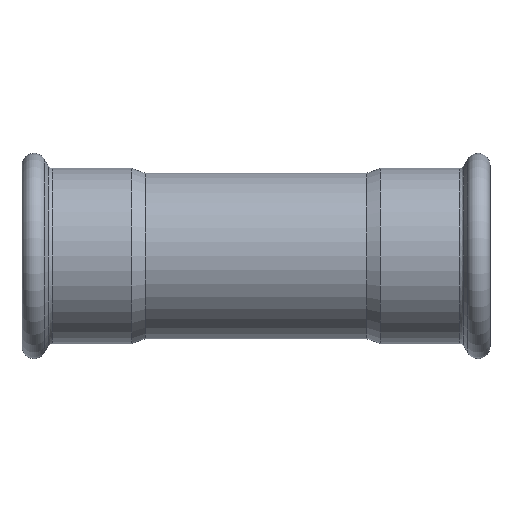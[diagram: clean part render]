
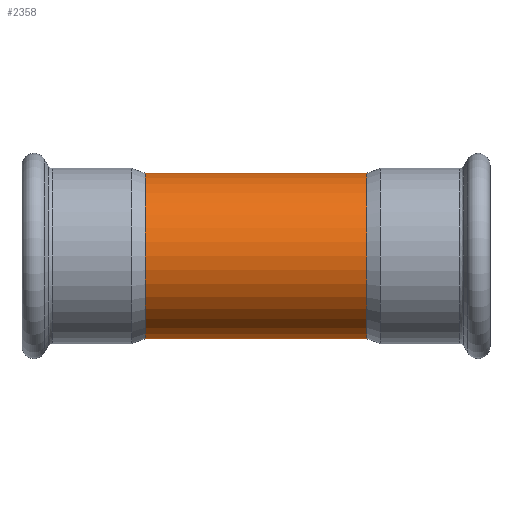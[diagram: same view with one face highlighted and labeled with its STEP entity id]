
A CAD part, front view. The second image highlights one B-rep face of the part: STEP entity #2358.
In plain terms, the highlighted cylindrical face has radius 38.05 mm (diameter 76.1 mm), a full revolution.
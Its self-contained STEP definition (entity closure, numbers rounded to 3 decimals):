
#2143=CARTESIAN_POINT('',(0.,26.243,-27.552));
#2144=VERTEX_POINT('',#2143);
#2230=CARTESIAN_POINT('',(0.,26.243,-27.552));
#2231=CARTESIAN_POINT('',(-1.129,26.243,-27.552));
#2232=CARTESIAN_POINT('',(-2.823,26.343,-27.457));
#2233=CARTESIAN_POINT('',(-5.035,26.661,-27.149));
#2234=CARTESIAN_POINT('',(-6.938,27.036,-26.776));
#2235=CARTESIAN_POINT('',(-8.524,27.452,-26.351));
#2236=CARTESIAN_POINT('',(-10.567,28.078,-25.684));
#2237=CARTESIAN_POINT('',(-12.784,28.882,-24.792));
#2238=CARTESIAN_POINT('',(-15.553,30.09,-23.319));
#2239=CARTESIAN_POINT('',(-17.685,31.149,-21.875));
#2240=CARTESIAN_POINT('',(-19.272,31.995,-20.606));
#2241=CARTESIAN_POINT('',(-20.794,32.839,-19.249));
#2242=CARTESIAN_POINT('',(-22.295,33.718,-17.677));
#2243=CARTESIAN_POINT('',(-23.573,34.498,-16.072));
#2244=CARTESIAN_POINT('',(-24.76,35.239,-14.398));
#2245=CARTESIAN_POINT('',(-26.021,36.049,-12.294));
#2246=CARTESIAN_POINT('',(-26.94,36.657,-10.259));
#2247=CARTESIAN_POINT('',(-27.492,37.026,-8.782));
#2248=CARTESIAN_POINT('',(-27.831,37.253,-7.784));
#2249=CARTESIAN_POINT('',(-28.663,37.817,-4.846));
#2250=CARTESIAN_POINT('',(-29.082,38.107,-1.495));
#2251=CARTESIAN_POINT('',(-28.96,38.022,1.724));
#2252=CARTESIAN_POINT('',(-28.748,37.877,3.858));
#2253=CARTESIAN_POINT('',(-28.22,37.516,6.703));
#2254=CARTESIAN_POINT('',(-27.371,36.943,9.225));
#2255=CARTESIAN_POINT('',(-26.526,36.384,11.152));
#2256=CARTESIAN_POINT('',(-25.916,35.984,12.408));
#2257=CARTESIAN_POINT('',(-24.634,35.157,14.649));
#2258=CARTESIAN_POINT('',(-22.904,34.078,17.006));
#2259=CARTESIAN_POINT('',(-21.034,32.979,19.003));
#2260=CARTESIAN_POINT('',(-19.03,31.854,20.853));
#2261=CARTESIAN_POINT('',(-16.461,30.507,22.799));
#2262=CARTESIAN_POINT('',(-13.27,29.072,24.573));
#2263=CARTESIAN_POINT('',(-10.664,28.111,25.649));
#2264=CARTESIAN_POINT('',(-7.944,27.264,26.552));
#2265=CARTESIAN_POINT('',(-4.537,26.485,27.324));
#2266=CARTESIAN_POINT('',(-0.868,26.191,27.601));
#2267=CARTESIAN_POINT('',(2.144,26.293,27.504));
#2268=CARTESIAN_POINT('',(4.378,26.54,27.267));
#2269=CARTESIAN_POINT('',(6.651,26.969,26.845));
#2270=CARTESIAN_POINT('',(8.596,27.468,26.335));
#2271=CARTESIAN_POINT('',(10.64,28.103,25.658));
#2272=CARTESIAN_POINT('',(13.247,29.063,24.583));
#2273=CARTESIAN_POINT('',(16.445,30.498,22.811));
#2274=CARTESIAN_POINT('',(19.179,31.932,20.739));
#2275=CARTESIAN_POINT('',(21.151,33.047,18.884));
#2276=CARTESIAN_POINT('',(22.993,34.134,16.883));
#2277=CARTESIAN_POINT('',(24.624,35.151,14.663));
#2278=CARTESIAN_POINT('',(25.994,36.034,12.272));
#2279=CARTESIAN_POINT('',(27.189,36.82,9.756));
#2280=CARTESIAN_POINT('',(28.322,37.584,6.413));
#2281=CARTESIAN_POINT('',(29.028,38.069,2.178));
#2282=CARTESIAN_POINT('',(29.031,38.071,-2.134));
#2283=CARTESIAN_POINT('',(28.449,37.672,-5.663));
#2284=CARTESIAN_POINT('',(27.656,37.135,-8.378));
#2285=CARTESIAN_POINT('',(26.652,36.464,-11.019));
#2286=CARTESIAN_POINT('',(25.348,35.612,-13.504));
#2287=CARTESIAN_POINT('',(23.812,34.644,-15.769));
#2288=CARTESIAN_POINT('',(21.692,33.349,-18.445));
#2289=CARTESIAN_POINT('',(19.315,31.987,-20.678));
#2290=CARTESIAN_POINT('',(16.809,30.714,-22.468));
#2291=CARTESIAN_POINT('',(15.08,29.884,-23.571));
#2292=CARTESIAN_POINT('',(13.241,29.082,-24.548));
#2293=CARTESIAN_POINT('',(11.299,28.344,-25.39));
#2294=CARTESIAN_POINT('',(9.298,27.664,-26.133));
#2295=CARTESIAN_POINT('',(6.684,26.946,-26.871));
#2296=CARTESIAN_POINT('',(3.387,26.376,-27.426));
#2297=CARTESIAN_POINT('',(1.129,26.243,-27.552));
#2298=CARTESIAN_POINT('',(0.,26.243,-27.552));
#2299=CARTESIAN_POINT('',(0.,26.243,-27.552));
#2300=CARTESIAN_POINT('',(0.,26.243,-27.552));
#2301=CARTESIAN_POINT('',(0.,26.243,-27.552));
#2302=B_SPLINE_CURVE_WITH_KNOTS('',3,(#2230,#2231,#2232,#2233,#2234,#2235,#2236,#2237,#2238,#2239,#2240,#2241,#2242,#2243,#2244,#2245,#2246,#2247,#2248,#2249,#2250,#2251,#2252,#2253,#2254,#2255,#2256,#2257,#2258,#2259,#2260,#2261,#2262,#2263,#2264,#2265,#2266,#2267,#2268,#2269,#2270,#2271,#2272,#2273,#2274,#2275,#2276,#2277,#2278,#2279,#2280,#2281,#2282,#2283,#2284,#2285,#2286,#2287,#2288,#2289,#2290,#2291,#2292,#2293,#2294,#2295,#2296,#2297,#2298,#2299,#2300,#2301),.UNSPECIFIED.,.T.,.U.,(4,1,1,1,1,1,1,1,1,1,1,1,1,1,1,1,1,1,1,1,1,1,1,1,1,1,1,1,1,1,1,1,1,1,1,1,1,1,1,1,1,1,1,1,1,1,1,1,1,1,1,1,1,1,1,1,1,1,1,1,1,1,1,1,1,1,3,4),(-17.078,-16.773,-16.621,-16.468,-16.239,-16.163,-15.858,-15.553,-15.248,-15.096,-14.943,-14.638,-14.448,-14.333,-14.028,-13.723,-13.685,-13.571,-13.419,-12.809,-12.618,-12.504,-12.199,-11.792,-11.741,-11.589,-11.385,-10.979,-10.725,-10.572,-10.166,-9.759,-9.505,-9.352,-8.946,-8.539,-8.361,-8.132,-7.929,-7.726,-7.573,-7.319,-6.913,-6.506,-6.303,-6.099,-5.693,-5.489,-5.286,-4.879,-4.473,-4.066,-3.66,-3.456,-3.253,-2.846,-2.643,-2.44,-1.83,-1.677,-1.525,-1.22,-1.067,-0.915,-0.61,-0.305,0.0,0.),.UNSPECIFIED.);
#2303=EDGE_CURVE('',#2144,#2144,#2302,.T.);
#2328=CARTESIAN_POINT('',(0.,0.,0.0));
#2329=DIRECTION('',(1.0,0.,0.0));
#2330=DIRECTION('',(0.0,1.0,0.0));
#2331=AXIS2_PLACEMENT_3D('',#2328,#2329,#2330);
#2332=CYLINDRICAL_SURFACE('',#2331,38.05);
#2333=CARTESIAN_POINT('',(-50.966,38.05,0.0));
#2334=VERTEX_POINT('',#2333);
#2335=CARTESIAN_POINT('',(-50.966,0.,0.0));
#2336=DIRECTION('',(1.0,0.0,0.0));
#2337=DIRECTION('',(0.0,1.0,0.0));
#2338=AXIS2_PLACEMENT_3D('',#2335,#2336,#2337);
#2339=CIRCLE('',#2338,38.05);
#2340=EDGE_CURVE('',#2334,#2334,#2339,.T.);
#2341=ORIENTED_EDGE('',*,*,#2340,.T.);
#2342=EDGE_LOOP('',(#2341));
#2343=FACE_OUTER_BOUND('',#2342,.T.);
#2344=CARTESIAN_POINT('',(50.966,38.05,0.0));
#2345=VERTEX_POINT('',#2344);
#2346=CARTESIAN_POINT('',(50.966,0.,0.0));
#2347=DIRECTION('',(1.0,0.0,0.0));
#2348=DIRECTION('',(0.0,1.0,0.0));
#2349=AXIS2_PLACEMENT_3D('',#2346,#2347,#2348);
#2350=CIRCLE('',#2349,38.05);
#2351=EDGE_CURVE('',#2345,#2345,#2350,.T.);
#2352=ORIENTED_EDGE('',*,*,#2351,.F.);
#2353=EDGE_LOOP('',(#2352));
#2354=FACE_BOUND('',#2353,.T.);
#2355=ORIENTED_EDGE('',*,*,#2303,.F.);
#2356=EDGE_LOOP('',(#2355));
#2357=FACE_BOUND('',#2356,.T.);
#2358=ADVANCED_FACE('',(#2343,#2354,#2357),#2332,.T.);
